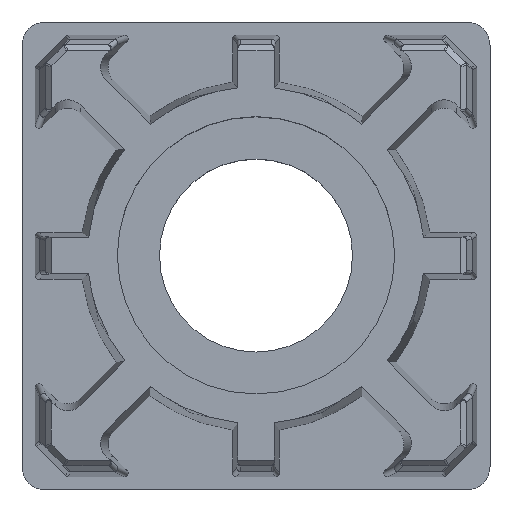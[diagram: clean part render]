
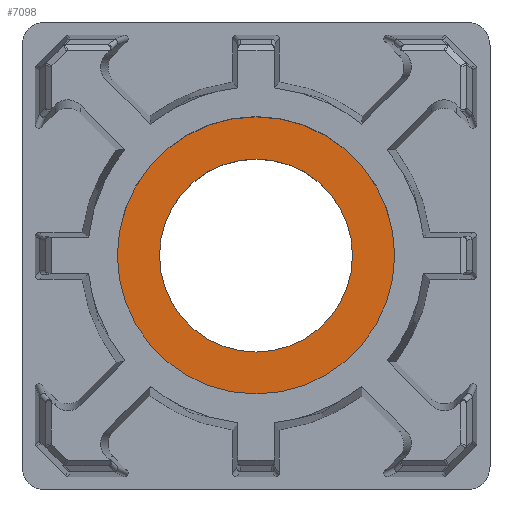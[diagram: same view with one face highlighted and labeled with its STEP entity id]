
A CAD part, top view. The second image highlights one B-rep face of the part: STEP entity #7098.
In plain terms, the highlighted planar face has unit normal (0, 0, 1).
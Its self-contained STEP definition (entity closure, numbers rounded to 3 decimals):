
#3192=EDGE_CURVE('',#8758,#8759,#8760,.F.);
#4810=EDGE_CURVE('',#11171,#8382,#11172,.T.);
#4978=EDGE_CURVE('',#8382,#11171,#11403,.T.);
#6190=EDGE_CURVE('',#8759,#8758,#12921,.F.);
#7098=ADVANCED_FACE('',(#13974,#13975),#13976,.T.);
#8382=VERTEX_POINT('',#15697);
#8758=VERTEX_POINT('',#16255);
#8759=VERTEX_POINT('',#16256);
#8760=CIRCLE('',#16257,8.25);
#11171=VERTEX_POINT('',#20065);
#11172=CIRCLE('',#20066,11.85);
#11403=CIRCLE('',#20449,11.85);
#12921=CIRCLE('',#22962,8.25);
#13974=FACE_OUTER_BOUND('',#24829,.T.);
#13975=FACE_BOUND('',#24830,.T.);
#13976=PLANE('',#24831);
#15697=CARTESIAN_POINT('',(11.85,0.0,30.5));
#16255=CARTESIAN_POINT('',(-8.25,0.,30.5));
#16256=CARTESIAN_POINT('',(8.25,0.0,30.5));
#16257=AXIS2_PLACEMENT_3D('',#26623,#26624,#26625);
#20065=CARTESIAN_POINT('',(-11.85,0.,30.5));
#20066=AXIS2_PLACEMENT_3D('',#28996,#28997,#28998);
#20449=AXIS2_PLACEMENT_3D('',#29746,#29747,#29748);
#22962=AXIS2_PLACEMENT_3D('',#31697,#31698,#31699);
#24829=EDGE_LOOP('',(#33170,#33171));
#24830=EDGE_LOOP('',(#33172,#33173));
#24831=AXIS2_PLACEMENT_3D('',#33174,#33175,#33176);
#26623=CARTESIAN_POINT('',(0.0,0.0,30.5));
#26624=DIRECTION('',(0.0,0.0,-1.0));
#26625=DIRECTION('',(1.0,0.0,0.0));
#28996=CARTESIAN_POINT('',(0.0,0.0,30.5));
#28997=DIRECTION('',(0.0,0.0,1.0));
#28998=DIRECTION('',(1.0,0.0,0.0));
#29746=CARTESIAN_POINT('',(0.0,0.0,30.5));
#29747=DIRECTION('',(0.0,0.0,1.0));
#29748=DIRECTION('',(1.0,0.0,0.0));
#31697=CARTESIAN_POINT('',(0.0,0.0,30.5));
#31698=DIRECTION('',(0.0,0.0,-1.0));
#31699=DIRECTION('',(1.0,0.0,0.0));
#33170=ORIENTED_EDGE('',*,*,#4978,.T.);
#33171=ORIENTED_EDGE('',*,*,#4810,.T.);
#33172=ORIENTED_EDGE('',*,*,#3192,.F.);
#33173=ORIENTED_EDGE('',*,*,#6190,.F.);
#33174=CARTESIAN_POINT('',(0.0,0.0,30.5));
#33175=DIRECTION('',(0.0,0.0,1.0));
#33176=DIRECTION('',(1.0,-0.0,0.0));
